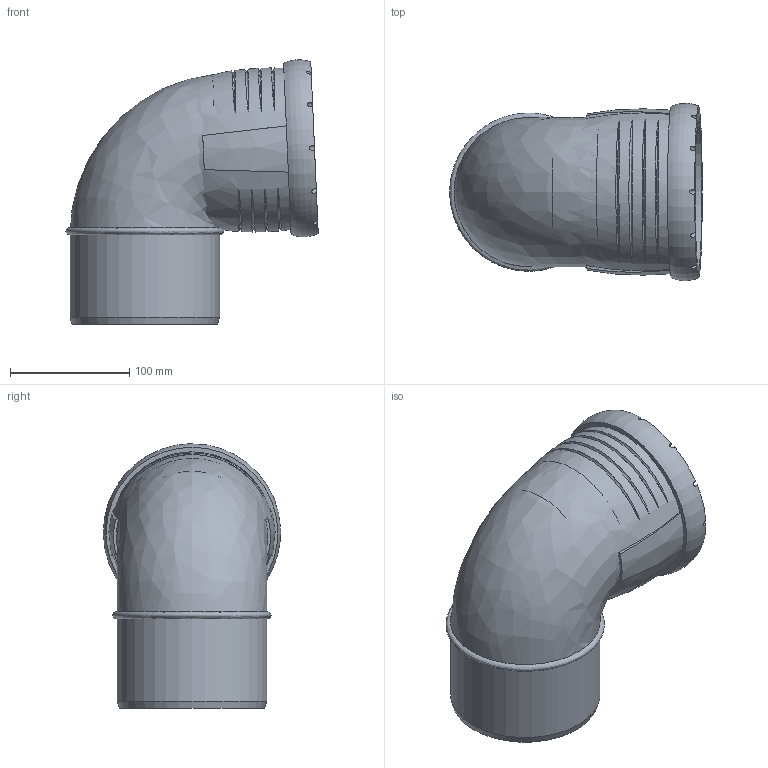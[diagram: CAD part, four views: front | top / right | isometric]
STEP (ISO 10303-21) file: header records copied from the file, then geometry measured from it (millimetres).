
FILE_DESCRIPTION(/* description */ (''),/* implementation_level */ '2;1');
FILE_NAME(/* name */ 'H:\Geberit-Teile\Export\Bogen_TEST\stp\393624.stp',/* time_stamp */ '2017-02-14T10:15:53+01:00',/* author */ ('seihe2'),/* organization */ (''),/* preprocessor_version */ 'ST-DEVELOPER v15.2',/* originating_system */ 'Autodesk Inventor 2014',/* authorisation */ '');
FILE_SCHEMA (('AUTOMOTIVE_DESIGN { 1 0 10303 214 3 1 1 }'));
Length unit declared in the file: millimetre
Products named in the file (1): 393624
Bounding box: 211.32 x 148.35 x 221.38 mm (x, y, z)
Volume: 1745207.6 mm3; surface area: 238403 mm2
Topology: 2 solids, 2 shells, 56 faces, 137 edges, 96 vertices
Faces by surface type: bspline 23, cylinder 20, plane 10, cone 2, torus 1
Full cylindrical faces by diameter (mm): 95.2 x1, 115.2 x1, 125.2 x1, 126 x1, 126.4 x1, 138.1 x1
Entity records: 4274 total; most frequent: CARTESIAN_POINT 3032, ORIENTED_EDGE 256, DIRECTION 194, EDGE_CURVE 126, AXIS2_PLACEMENT_3D 95, VERTEX_POINT 94, EDGE_LOOP 79, B_SPLINE_CURVE_WITH_KNOTS 60
